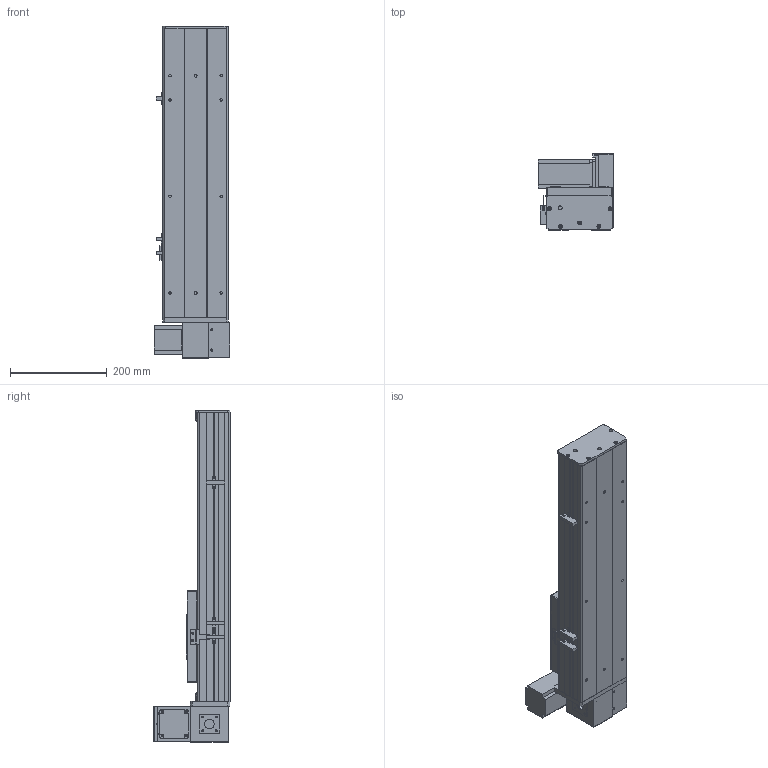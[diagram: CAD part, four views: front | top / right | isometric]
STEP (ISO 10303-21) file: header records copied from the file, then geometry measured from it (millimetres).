
FILE_DESCRIPTION (( 'STEP AP203' ), '1' );
FILE_NAME ('Y135CB-D90-S300-UL-P400W.STEP', '2020-02-18T07:02:45', ( '微软用户' ), ( '微软中国' ), 'SwSTEP 2.0', 'SolidWorks 2017', '' );
FILE_SCHEMA (( 'CONFIG_CONTROL_DESIGN' ));
Length unit declared in the file: millimetre
Products named in the file (18): Y135CB-D90-S300-UL-P400W; 135CB--詩湍-CE; Y135CB-耜裔; Y100-135俋离換覜ん--; 135CB---遴掛极.-; Y135C-陔俋离換覜結え-; 35CB---喘謫眊楊擘啣; 5C--俋欶; 0B-埴倛裔啣; C-雄赽釱--; 0B-源倛裔啣; Y10B-耜蚾蟀諉啣----; 0B-萇儂楊擘啣; san松下电机400不带刹车----; 00B-俋欶BM--; 5CB --掛极耜裔啣-; Y10B--々湍喘謫眊--666; C-詩湍揤踡え-陔
Assembly tree (21 placements, depth 2):
  Y135CB-D90-S300-UL-P400W
    Y135CB-耜裔
    135CB---遴掛极.-
    35CB---喘謫眊楊擘啣
    0B-埴倛裔啣
    0B-源倛裔啣
    0B-萇儂楊擘啣
    san松下电机400不带刹车----
    5CB --掛极耜裔啣-  x2
    C-詩湍揤踡え-陔  x2
    135CB--詩湍-CE
    Y100-135俋离換覜ん--  x3
    Y135C-陔俋离換覜結え-
    5C--俋欶
    C-雄赽釱--
    Y10B-耜蚾蟀諉啣----
    00B-俋欶BM--
    Y10B--々湍喘謫眊--666
Bounding box: 157 x 158.7 x 688 mm (x, y, z)
Volume: 2568500.9 mm3; surface area: 986506.2 mm2
Topology: 21 solids, 21 shells, 933 faces, 2473 edges, 1638 vertices
Faces by surface type: cylinder 461, plane 456, cone 16
Entity records: 28743 total; most frequent: DIRECTION 4773, CARTESIAN_POINT 4680, ORIENTED_EDGE 4422, EDGE_CURVE 2211, AXIS2_PLACEMENT_3D 1735, VERTEX_POINT 1466, LINE 1303, VECTOR 1303
